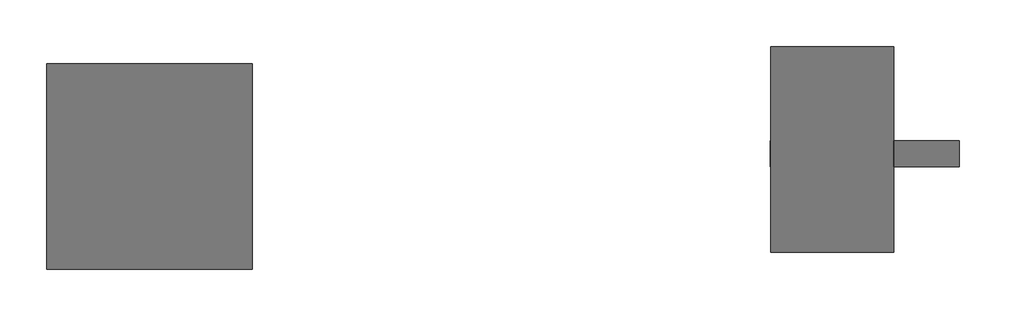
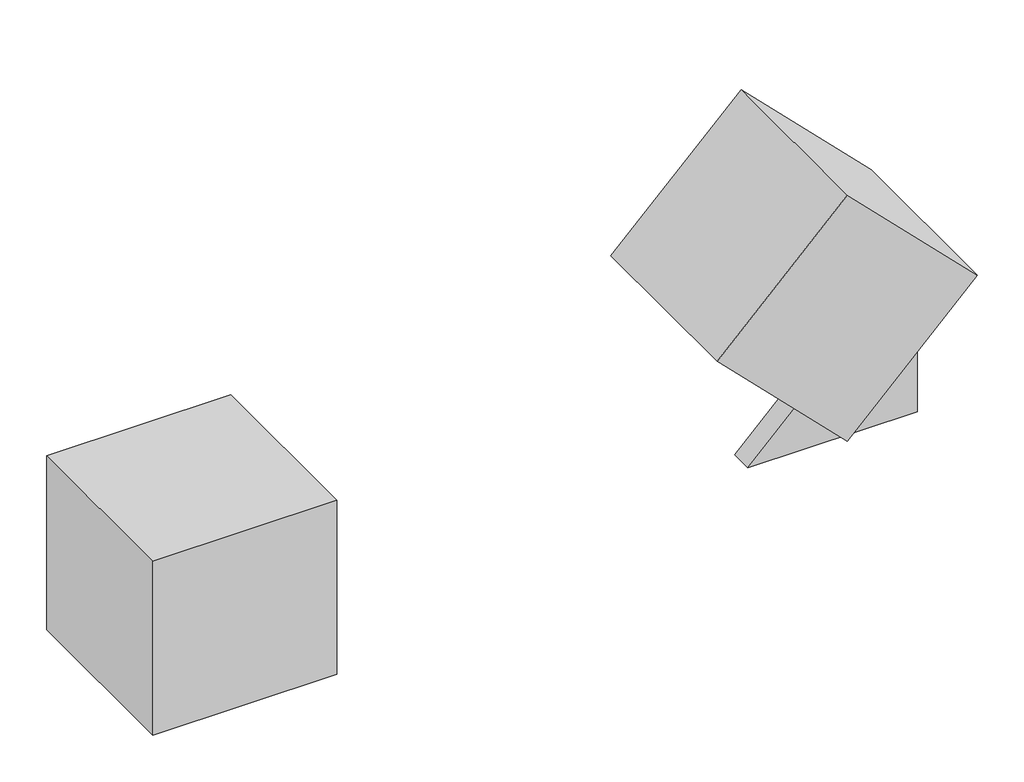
# One storey: 3 proxies.
"""IFC4 building model written with IfcOpenShell, lengths in millimetres."""

import ifcopenshell
import ifcopenshell.guid

model = None  # the IFC model being written
_history = None  # IfcOwnerHistory: only IFC2X3 demands one
_inside = {}  # id of a spatial element -> (the spatial element, [elements in it])
_under = {}  # id of a project, library or spatial element -> (it, [spatial elements below it])
_declared = {}  # id of a project -> (the project, [libraries it declares])
_typed = {}  # id of a type object -> (the type object, [elements of that type])
_made_of = {}  # id of a material, layer set ... -> (it, [elements and type objects made of it])


def new_model(schema):
    """Start an empty IFC model of exactly this schema.

    Asked for "IFC4X3", IfcOpenShell would pick the latest addendum, in which some entities
    have other attributes; the version numbers below select the first issue.
    IFC2X3 requires an IfcOwnerHistory on every rooted entity: one is made here for all.
    """
    global model, _history
    if schema == "IFC4X3":
        model = ifcopenshell.file(schema_version=(4, 3, 0, 0))
    else:
        model = ifcopenshell.file(schema=schema)
    _inside.clear()
    _under.clear()
    _declared.clear()
    _typed.clear()
    _made_of.clear()
    _history = None
    if model.schema == "IFC2X3":
        org = make("IfcOrganization", Name="unknown")
        user = make(
            "IfcPersonAndOrganization",
            ThePerson=make("IfcPerson", FamilyName="unknown"),
            TheOrganization=org,
        )
        app = make(
            "IfcApplication",
            ApplicationDeveloper=org,
            Version="unknown",
            ApplicationFullName="unknown",
            ApplicationIdentifier="unknown",
        )
        _history = make(
            "IfcOwnerHistory",
            OwningUser=user,
            OwningApplication=app,
            ChangeAction="ADDED",
            CreationDate=0,
        )
    return model


def make(cls, **values):
    """One entity of the class cls with the attributes given. An attribute that is None is left unset."""
    return model.create_entity(
        cls, **{name: value for name, value in values.items() if value is not None}
    )


def rooted(cls, **values):
    """An entity with a GlobalId (a new one), such as an element, a storey or a relation."""
    return make(cls, GlobalId=ifcopenshell.guid.new(), OwnerHistory=_history, **values)


def si_unit(unit_type, name, prefix=None):
    """IfcSIUnit, for example si_unit("LENGTHUNIT", "METRE", prefix="MILLI")."""
    return make("IfcSIUnit", UnitType=unit_type, Prefix=prefix, Name=name)


def assignment(units):
    """IfcUnitAssignment: the units of a project."""
    return None if units is None else make("IfcUnitAssignment", Units=units)


def point(xyz):
    """IfcCartesianPoint."""
    return None if xyz is None else make("IfcCartesianPoint", Coordinates=xyz)


def direction(xyz):
    """IfcDirection."""
    return None if xyz is None else make("IfcDirection", DirectionRatios=xyz)


def frame(location, z_axis=None, x_axis=None):
    """IfcAxis2Placement3D, a coordinate frame: its origin and axes. An axis left out is left unset."""
    return make(
        "IfcAxis2Placement3D",
        Location=point(location),
        Axis=direction(z_axis),
        RefDirection=direction(x_axis),
    )


def origin():
    """The frame at (0, 0, 0) with its axes left unset."""
    return frame((0.0, 0.0, 0.0))


def origin_with_axes():
    """The frame at (0, 0, 0) with the z axis (0, 0, 1) and the x axis (1, 0, 0) written out."""
    return frame((0.0, 0.0, 0.0), z_axis=(0.0, 0.0, 1.0), x_axis=(1.0, 0.0, 0.0))


def place(relative_to, where):
    """IfcLocalPlacement: puts the frame where relative to a parent placement (None: the world)."""
    return make(
        "IfcLocalPlacement", PlacementRelTo=relative_to, RelativePlacement=where
    )


def context(
    kind, dimensions, precision=None, world=None, true_north=None, identifier=None
):
    """IfcGeometricRepresentationContext, for example the 3D "Model" context."""
    return make(
        "IfcGeometricRepresentationContext",
        ContextIdentifier=identifier,
        ContextType=kind,
        CoordinateSpaceDimension=dimensions,
        Precision=precision,
        WorldCoordinateSystem=world,
        TrueNorth=true_north,
    )


def project(units=None, contexts=None):
    """IfcProject with its units and contexts."""
    return rooted(
        "IfcProject",
        Name="project",
        RepresentationContexts=contexts,
        UnitsInContext=assignment(units),
    )


def spatial(cls, under=None, at=None, **own):
    """A site, building, storey or space (cls), placed at a placement, below another one or the project."""
    s = rooted(cls, ObjectPlacement=at, **own)
    if under is not None:
        _under.setdefault(under.id(), (under, []))[1].append(s)
    return s


def polyline(points):
    """IfcPolyline through the points."""
    return make("IfcPolyline", Points=[point(p) for p in points])


def outline(outer, holes=None, kind="AREA"):
    """IfcArbitraryClosedProfileDef: a profile drawn as a closed curve; with holes, ...WithVoids."""
    if holes is None:
        return make("IfcArbitraryClosedProfileDef", ProfileType=kind, OuterCurve=outer)
    return make(
        "IfcArbitraryProfileDefWithVoids",
        ProfileType=kind,
        OuterCurve=outer,
        InnerCurves=holes,
    )


def extrude(swept, where, along, depth):
    """IfcExtrudedAreaSolid: the profile swept, set in the frame where, extruded along a direction by depth."""
    return make(
        "IfcExtrudedAreaSolid",
        SweptArea=swept,
        Position=where,
        ExtrudedDirection=direction(along),
        Depth=depth,
    )


def shape(context_of_items, identifier, shape_type, items):
    """IfcShapeRepresentation: the items that make up one representation, for example the "Body"."""
    return make(
        "IfcShapeRepresentation",
        ContextOfItems=context_of_items,
        RepresentationIdentifier=identifier,
        RepresentationType=shape_type,
        Items=items,
    )


def source(mapping_origin, context_of_items, identifier, shape_type, items):
    """IfcRepresentationMap: a shape defined once, which mapped items show again and again."""
    return make(
        "IfcRepresentationMap",
        MappingOrigin=mapping_origin,
        MappedRepresentation=shape(context_of_items, identifier, shape_type, items),
    )


def transform(
    local_origin,
    x_axis=None,
    y_axis=None,
    z_axis=None,
    scale=None,
    scale2=None,
    scale3=None,
    uniform=True,
):
    """IfcCartesianTransformationOperator3D, or its non-uniform kind. x_axis, y_axis, z_axis: its Axis1, 2, 3."""
    if uniform:
        return make(
            "IfcCartesianTransformationOperator3D",
            Axis1=direction(x_axis),
            Axis2=direction(y_axis),
            LocalOrigin=point(local_origin),
            Scale=scale,
            Axis3=direction(z_axis),
        )
    return make(
        "IfcCartesianTransformationOperator3DnonUniform",
        Axis1=direction(x_axis),
        Axis2=direction(y_axis),
        LocalOrigin=point(local_origin),
        Scale=scale,
        Axis3=direction(z_axis),
        Scale2=scale2,
        Scale3=scale3,
    )


def mapped(mapping_source, mapping_target):
    """IfcMappedItem: shows the shape of a source again, moved by a transform."""
    return make(
        "IfcMappedItem", MappingSource=mapping_source, MappingTarget=mapping_target
    )


def made_of(thing, what):
    """Note that an element or type object is made of a material, layer set ...; save() writes the relation."""
    if what is not None:
        _made_of.setdefault(what.id(), (what, []))[1].append(thing)
    return thing


def element(
    cls,
    number,
    at=None,
    inside=None,
    cuts=None,
    type_object=None,
    material=None,
    context=None,
    identifier="Body",
    shape_type=None,
    held_by="IfcProductDefinitionShape",
    body=None,
    shapes=None,
    **own,
):
    """One element of the class cls, such as IfcWall. Its Tag is "e" and its number.

    at: its placement. inside: the storey or other place that contains it. cuts: it is an
    opening in that element (IfcRelVoidsElement). A single representation is given by context,
    identifier, shape_type and body (its items); several are given by shapes. held_by: the class
    of the entity that holds the representations. save() writes the other relations.
    """
    e = rooted(cls, Tag="e%d" % number, ObjectPlacement=at, **own)
    if body is not None:
        shapes = [shape(context, identifier, shape_type, body)]
    if shapes is not None:
        e.Representation = make(held_by, Representations=shapes)
    if inside is not None:
        _inside.setdefault(inside.id(), (inside, []))[1].append(e)
    if cuts is not None:
        rooted(
            "IfcRelVoidsElement", RelatingBuildingElement=cuts, RelatedOpeningElement=e
        )
    if type_object is not None:
        _typed.setdefault(type_object.id(), (type_object, []))[1].append(e)
    return made_of(e, material)


def aggregate(whole, parts):
    """IfcRelAggregates: a whole, such as a stair, and the parts it consists of."""
    return rooted("IfcRelAggregates", RelatingObject=whole, RelatedObjects=parts)


def save(model, path):
    """Write the relations noted so far, then the file.

    IfcRelAggregates (storeys below a building ...), IfcRelContainedInSpatialStructure (elements
    in a storey), IfcRelDefinesByType, IfcRelAssociatesMaterial and IfcRelDeclares: one each for
    every whole, place, type object, material and project.
    """
    for whole, parts in _under.values():
        aggregate(whole, parts)
    for where, things in _inside.values():
        rooted(
            "IfcRelContainedInSpatialStructure",
            RelatedElements=things,
            RelatingStructure=where,
        )
    for kind, things in _typed.values():
        rooted("IfcRelDefinesByType", RelatedObjects=things, RelatingType=kind)
    for what, things in _made_of.values():
        rooted("IfcRelAssociatesMaterial", RelatedObjects=things, RelatingMaterial=what)
    for by, libraries in _declared.values():
        rooted("IfcRelDeclares", RelatingContext=by, RelatedDefinitions=libraries)
    model.write(path)


def generic_models_26dfa194(model_context):
    return source(origin(), model_context, "Body", "SweptSolid", [
        extrude(outline(polyline([(1000.0, 1000.0), (1000.0, -1000.0), (-1000.0, -1000.0), (-1000.0, 1000.0), (1000.0, 1000.0)])), origin_with_axes(), (0.0, 0.0, 1.0), 2000.0),
    ])


def generic_models_6ff17f01(model_context):
    return source(origin(), model_context, "Body", "SweptSolid", [
        extrude(outline(polyline([(1838.4776311, 4431.0152317), (0.0, 2592.5376006), (0.0, 4431.0152317), (1838.4776311, 4431.0152317)])), frame((0.0, 602.7801219, 0.0), z_axis=(0.0, 1.0, 0.0), x_axis=(0.0, 0.0, 1.0)), (0.0, 0.0, 1.0), 250.0),
    ])


model = new_model("IFC4")

# Units and contexts
model_context = context("Model", 3, world=origin())
ifc_project = project(units=[si_unit("LENGTHUNIT", "METRE", prefix="MILLI")], contexts=[model_context])

# Site, building, storey
site = spatial("IfcSite", under=ifc_project)
building = spatial("IfcBuilding", under=site)
storey = spatial("IfcBuildingStorey", under=building, Name="标高 1", Elevation=0.0)

# Proxies
placement = place(None, origin())
generic_models_shape = generic_models_26dfa194(model_context)
element("IfcBuildingElementProxy", 1, Name="Revit的工作平面如果设置 : Revit的工作平面如果设置", ObjectType="Revit的工作平面如果设置 : Revit的工作平面如果设置", at=placement, inside=storey, context=model_context, shape_type="MappedRepresentation", body=[
    mapped(generic_models_shape, transform((-3453.0980428, 602.7801219, 0.0), x_axis=(1.0, 0.0, 0.0), y_axis=(0.0, 1.0, 0.0), z_axis=(0.0, 0.0, 1.0))),
])
element("IfcBuildingElementProxy", 2, Name="Revit的工作平面如果设置 : Revit的工作平面如果设置", ObjectType="Revit的工作平面如果设置 : Revit的工作平面如果设置", at=placement, inside=storey, context=model_context, shape_type="MappedRepresentation", body=[
    mapped(generic_models_shape, transform((3900.3686048, 770.8058381, 1307.8310042), x_axis=(0.0, -1.0, 0.0), y_axis=(0.7071067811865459, 0.0, 0.7071067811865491), z_axis=(-0.7071067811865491, 0.0, 0.7071067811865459))),
])
generic_models_2_shape = generic_models_6ff17f01(model_context)
element("IfcBuildingElementProxy", 3, Name="常规模型 1 : 常规模型 1", ObjectType="常规模型 1 : 常规模型 1", at=placement, inside=storey, context=model_context, shape_type="MappedRepresentation", body=[
    mapped(generic_models_2_shape, transform((0.0, 0.0, 0.0), x_axis=(1.0, 0.0, 0.0), y_axis=(0.0, 1.0, 0.0), z_axis=(0.0, 0.0, 1.0))),
])

save(model, "model.ifc")
